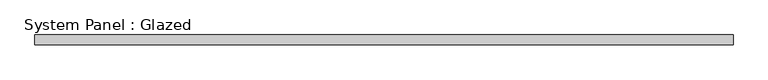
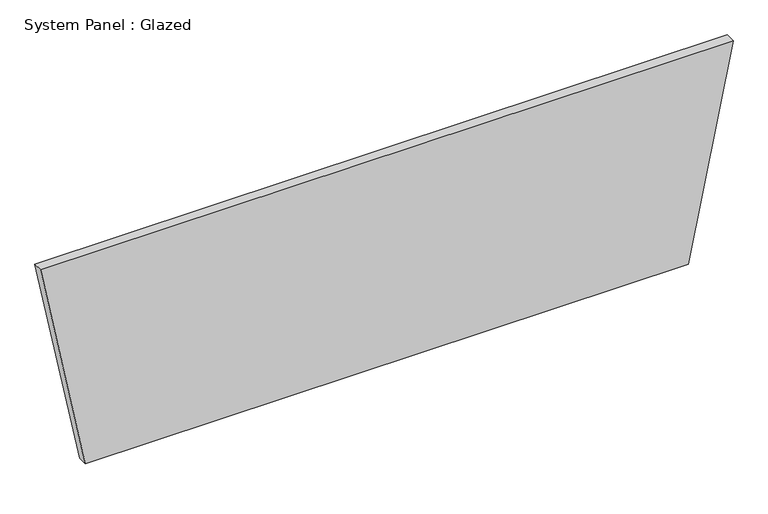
"""IFC4 building model written with IfcOpenShell, lengths in millimetres: plate geometry, System Panel : Glazed."""

from ifc_helpers import new_model, si_unit, frame, origin, place, context, project, spatial, polyline, outline, extrude, source, transform, mapped, element, save


def system_panel_glazed_5e00ce77(model_context):
    return source(origin(), model_context, "Body", "SweptSolid", [
        extrude(outline(polyline([(0.0, -781.1021078), (0.0, 781.1021078), (572.0638084, 896.9903024), (572.0638084, -896.9903024), (0.0, -781.1021078)])), frame((0.0, -44.45, 0.0), z_axis=(0.0, 1.0, 0.0), x_axis=(0.0, 0.0, 1.0)), (0.0, 0.0, 1.0), 25.4),
    ])


if __name__ == "__main__":
    model = new_model("IFC4")
    model_context = context("Model", 3, world=origin())
    ifc_project = project(units=[si_unit("LENGTHUNIT", "METRE", prefix="MILLI")], contexts=[model_context])
    site = spatial("IfcSite", under=ifc_project)
    building = spatial("IfcBuilding", under=site)
    placement = place(None, origin())
    system_panel_glazed_shape = system_panel_glazed_5e00ce77(model_context)
    element("IfcPlate", 1, ObjectType="System Panel : Glazed", at=placement, inside=building, context=model_context, shape_type="MappedRepresentation", body=[
        mapped(system_panel_glazed_shape, transform((0.0, 0.0, 0.0), x_axis=(1.0, 0.0, 0.0), y_axis=(0.0, 1.0, 0.0), z_axis=(0.0, 0.0, 1.0))),
    ])
    save(model, "model.ifc")
